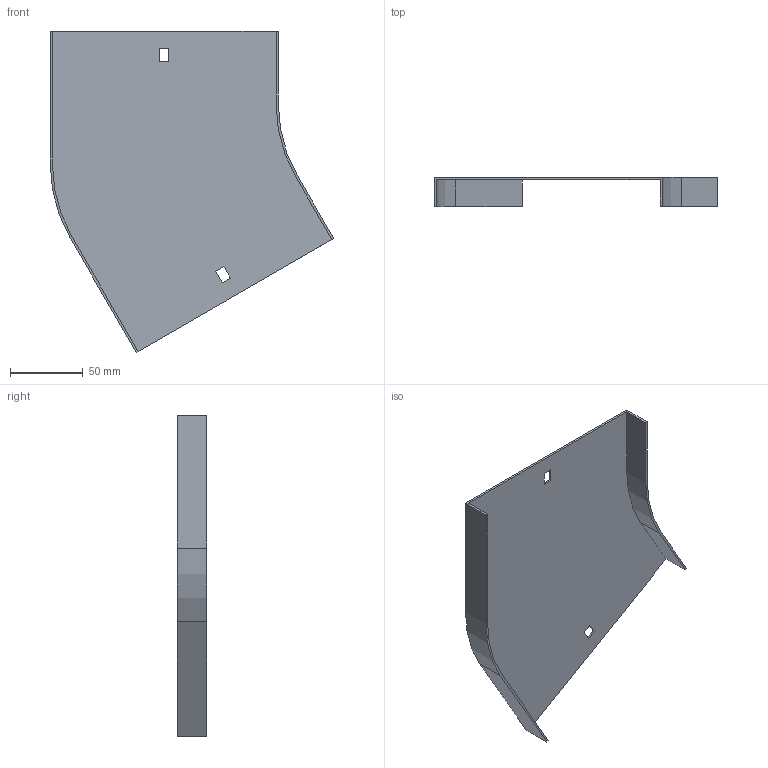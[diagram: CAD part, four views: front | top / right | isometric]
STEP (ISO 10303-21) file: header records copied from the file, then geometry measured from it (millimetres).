
FILE_DESCRIPTION (( 'STEP AP214' ), '1' );
FILE_NAME ('12N1R150.step', '2025-02-21T09:20:15', ( '' ), ( '' ), 'SwSTEP 2.0', 'SolidWorks 2023', '' );
FILE_SCHEMA (( 'AUTOMOTIVE_DESIGN' ));
Length unit declared in the file: millimetre
Products named in the file (1): 12N1R150
Bounding box: 195.2 x 20 x 221.05 mm (x, y, z)
Volume: 56453.2 mm3; surface area: 76526.8 mm2
Topology: 1 solids, 1 shells, 26 faces, 72 edges, 48 vertices
Faces by surface type: plane 22, cylinder 4
Entity records: 855 total; most frequent: CARTESIAN_POINT 147, ORIENTED_EDGE 144, DIRECTION 134, EDGE_CURVE 72, LINE 64, VECTOR 64, VERTEX_POINT 48, AXIS2_PLACEMENT_3D 35
